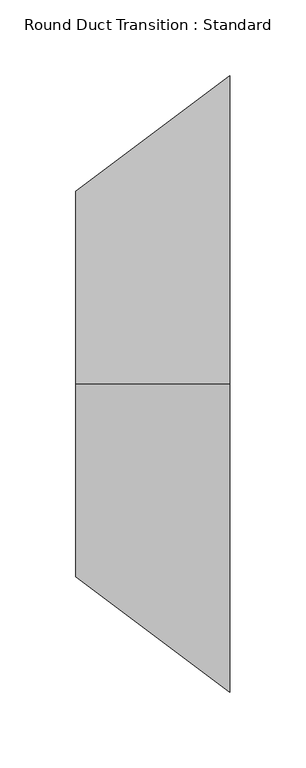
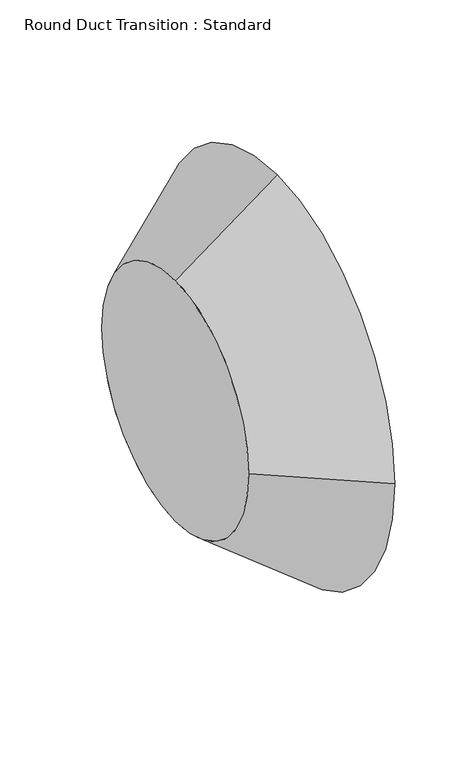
"""IFC4 building model written with IfcOpenShell, lengths in millimetres: duct fitting geometry, Round Duct Transition : Standard."""

from ifc_helpers import new_model, si_unit, frame, origin, place, context, project, spatial, polyline, circle_curve, source, transform, mapped, element, save
from ifc_brep_helpers import plane_surface, revolved_surface, advanced_brep


def round_duct_transition_standard_258c60d8(model_context):
    return source(origin(), model_context, "Body", "AdvancedBrep", [
        advanced_brep(
        [(101.6, -203.2, 0.0), (101.6, 0.0, -203.2), (101.6, 203.2, 0.0), (101.6, 0.0, 203.2), (0.0, -127.0, 0.0), (0.0, 0.0, 127.0), (0.0, 127.0, 0.0), (0.0, 0.0, -127.0)],
        [
            (0, 1, circle_curve(frame((101.6, 0.0, 0.0), z_axis=(1.0, 0.0, 0.0), x_axis=(0.0, -1.0, 0.0)), 203.2)),
            (1, 2, circle_curve(frame((101.6, 0.0, 0.0), z_axis=(1.0, 0.0, 0.0), x_axis=(0.0, 0.0, -1.0)), 203.2)),
            (2, 3, circle_curve(frame((101.6, 0.0, 0.0), z_axis=(1.0, 0.0, 0.0), x_axis=(0.0, 1.0, 0.0)), 203.2)),
            (3, 0, circle_curve(frame((101.6, 0.0, 0.0), z_axis=(1.0, 0.0, 0.0), x_axis=(0.0, 0.0, 1.0)), 203.2)),
            (4, 5, circle_curve(frame((0.0, 0.0, 0.0), z_axis=(-1.0, 0.0, 0.0), x_axis=(0.0, 0.0, 1.0)), 127.0)),
            (5, 6, circle_curve(frame((0.0, 0.0, 0.0), z_axis=(-1.0, 0.0, 0.0), x_axis=(0.0, 1.0, 0.0)), 127.0)),
            (6, 7, circle_curve(frame((0.0, 0.0, 0.0), z_axis=(-1.0, 0.0, 0.0), x_axis=(0.0, 0.0, -1.0)), 127.0)),
            (7, 4, circle_curve(frame((0.0, 0.0, 0.0), z_axis=(-1.0, 0.0, 0.0), x_axis=(0.0, -1.0, 0.0)), 127.0)),
            (7, 1),
            (0, 4),
            (6, 2),
            (5, 3),
        ],
        [
            plane_surface(frame((101.6, 0.0, 0.0), z_axis=(1.0, 0.0, 0.0), x_axis=(0.0, 0.0, -1.0))),
            plane_surface(frame((0.0, 0.0, 0.0), z_axis=(-1.0, 0.0, 0.0), x_axis=(0.0, 0.0, -1.0))),
            revolved_surface(polyline([(0.0, 0.0, -126.999999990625), (101.59999999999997, 0.0, -203.2)]), (-169.3333333, 0.0, 0.0), (1.0, 0.0, 0.0)),
            revolved_surface(polyline([(0.0, 126.999999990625, 0.0), (101.59999999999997, 203.2, 0.0)]), (-169.3333333, 0.0, 0.0), (1.0, 0.0, 0.0)),
            revolved_surface(polyline([(0.0, 0.0, 126.999999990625), (101.59999999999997, 0.0, 203.2)]), (-169.3333333, 0.0, 0.0), (1.0, 0.0, 0.0)),
            revolved_surface(polyline([(0.0, -126.999999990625, 0.0), (101.59999999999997, -203.2, 0.0)]), (-169.3333333, 0.0, 0.0), (1.0, 0.0, 0.0)),
        ],
        [
            (0, [[1, 2, 3, 4]]),
            (1, [[5, 6, 7, 8]]),
            (2, [[-8, 9, -1, 10]]),
            (3, [[-7, 11, -2, -9]]),
            (4, [[-6, 12, -3, -11]]),
            (5, [[-5, -10, -4, -12]]),
        ],
    ),
        advanced_brep(
        [(0.0, -127.0, 0.0), (0.0, 0.0, 127.0), (0.0, 127.0, 0.0), (0.0, 0.0, -127.0), (101.6, -203.2, 0.0), (101.6, 0.0, -203.2), (101.6, 203.2, 0.0), (101.6, 0.0, 203.2)],
        [
            (0, 1, circle_curve(frame((0.0, 0.0, 0.0), z_axis=(-1.0, 0.0, 0.0), x_axis=(0.0, -1.0, 0.0)), 127.0)),
            (1, 2, circle_curve(frame((0.0, 0.0, 0.0), z_axis=(-1.0, 0.0, 0.0), x_axis=(0.0, 0.0, 1.0)), 127.0)),
            (2, 3, circle_curve(frame((0.0, 0.0, 0.0), z_axis=(-1.0, 0.0, 0.0), x_axis=(0.0, 1.0, 0.0)), 127.0)),
            (3, 0, circle_curve(frame((0.0, 0.0, 0.0), z_axis=(-1.0, 0.0, 0.0), x_axis=(0.0, 0.0, -1.0)), 127.0)),
            (4, 5, circle_curve(frame((101.6, 0.0, 0.0), z_axis=(1.0, 0.0, 0.0), x_axis=(0.0, 0.0, -1.0)), 203.2)),
            (5, 6, circle_curve(frame((101.6, 0.0, 0.0), z_axis=(1.0, 0.0, 0.0), x_axis=(0.0, 1.0, 0.0)), 203.2)),
            (6, 7, circle_curve(frame((101.6, 0.0, 0.0), z_axis=(1.0, 0.0, 0.0), x_axis=(0.0, 0.0, 1.0)), 203.2)),
            (7, 4, circle_curve(frame((101.6, 0.0, 0.0), z_axis=(1.0, 0.0, 0.0), x_axis=(0.0, -1.0, 0.0)), 203.2)),
            (7, 1),
            (0, 4),
            (6, 2),
            (5, 3),
        ],
        [
            plane_surface(frame((0.0, 0.0, 0.0), z_axis=(-1.0, 0.0, 0.0), x_axis=(0.0, 0.0, -1.0))),
            plane_surface(frame((101.6, 0.0, 0.0), z_axis=(1.0, 0.0, 0.0), x_axis=(0.0, 0.0, -1.0))),
            revolved_surface(polyline([(0.0, -126.999999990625, 0.0), (101.59999999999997, -203.2, 0.0)]), (-169.3333333, 0.0, 0.0), (1.0, 0.0, 0.0)),
            revolved_surface(polyline([(0.0, 0.0, 126.999999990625), (101.59999999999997, 0.0, 203.2)]), (-169.3333333, 0.0, 0.0), (1.0, 0.0, 0.0)),
            revolved_surface(polyline([(0.0, 126.999999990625, 0.0), (101.59999999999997, 203.2, 0.0)]), (-169.3333333, 0.0, 0.0), (1.0, 0.0, 0.0)),
            revolved_surface(polyline([(0.0, 0.0, -126.999999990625), (101.59999999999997, 0.0, -203.2)]), (-169.3333333, 0.0, 0.0), (1.0, 0.0, 0.0)),
        ],
        [
            (0, [[1, 2, 3, 4]]),
            (1, [[5, 6, 7, 8]]),
            (2, [[-8, 9, -1, 10]]),
            (3, [[-7, 11, -2, -9]]),
            (4, [[-6, 12, -3, -11]]),
            (5, [[-5, -10, -4, -12]]),
        ],
    ),
        advanced_brep(
        [(101.6, -203.2, 0.0), (101.6, 203.2, 0.0), (0.0, -127.0, 0.0), (0.0, 127.0, 0.0)],
        [
            (0, 1, circle_curve(frame((101.6, 0.0, 0.0), z_axis=(1.0, 0.0, 0.0), x_axis=(0.0, -1.0, 0.0)), 203.2)),
            (1, 0, circle_curve(frame((101.6, 0.0, 0.0), z_axis=(1.0, 0.0, 0.0), x_axis=(0.0, 1.0, 0.0)), 203.2)),
            (2, 3, circle_curve(frame((0.0, 0.0, 0.0), z_axis=(-1.0, 0.0, 0.0), x_axis=(0.0, 1.0, 0.0)), 127.0)),
            (3, 2, circle_curve(frame((0.0, 0.0, 0.0), z_axis=(-1.0, 0.0, 0.0), x_axis=(0.0, -1.0, 0.0)), 127.0)),
            (3, 1),
            (0, 2),
        ],
        [
            plane_surface(frame((101.6, 0.0, 0.0), z_axis=(1.0, 0.0, 0.0), x_axis=(0.0, 0.0, -1.0))),
            plane_surface(frame((0.0, 0.0, 0.0), z_axis=(-1.0, 0.0, 0.0), x_axis=(0.0, 0.0, -1.0))),
            revolved_surface(polyline([(0.0, 126.999999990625, 0.0), (101.59999999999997, 203.2, 0.0)]), (-169.3333333, 0.0, 0.0), (1.0, 0.0, 0.0)),
            revolved_surface(polyline([(0.0, -126.999999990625, 0.0), (101.59999999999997, -203.2, 0.0)]), (-169.3333333, 0.0, 0.0), (1.0, 0.0, 0.0)),
        ],
        [
            (0, [[1, 2]]),
            (1, [[3, 4]]),
            (2, [[-4, 5, -1, 6]]),
            (3, [[-3, -6, -2, -5]]),
        ],
    ),
    ])


if __name__ == "__main__":
    model = new_model("IFC4")
    model_context = context("Model", 3, world=origin())
    ifc_project = project(units=[si_unit("LENGTHUNIT", "METRE", prefix="MILLI")], contexts=[model_context])
    site = spatial("IfcSite", under=ifc_project)
    building = spatial("IfcBuilding", under=site)
    placement = place(None, origin())
    round_duct_transition_standard_shape = round_duct_transition_standard_258c60d8(model_context)
    element("IfcDuctFitting", 1, ObjectType="Round Duct Transition : Standard", at=placement, inside=building, context=model_context, shape_type="MappedRepresentation", body=[
        mapped(round_duct_transition_standard_shape, transform((0.0, 0.0, 0.0), x_axis=(1.0, 0.0, 0.0), y_axis=(0.0, 1.0, 0.0), z_axis=(0.0, 0.0, 1.0))),
    ])
    save(model, "model.ifc")
